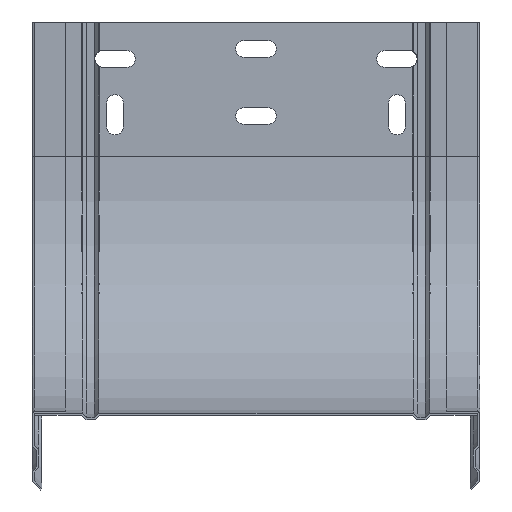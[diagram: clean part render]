
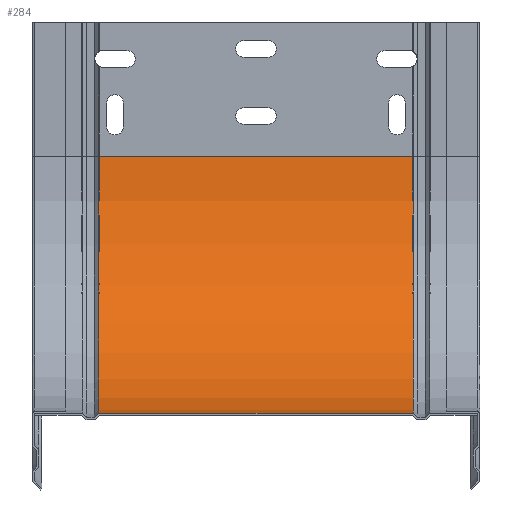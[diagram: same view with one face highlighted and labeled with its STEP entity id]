
A CAD part, front view. The second image highlights one B-rep face of the part: STEP entity #284.
In plain terms, the highlighted cylindrical face has radius 115 mm (diameter 230 mm), a partial arc.
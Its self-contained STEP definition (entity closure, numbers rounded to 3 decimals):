
#206 = VERTEX_POINT ( 'NONE', #1569 ) ;
#284 = ADVANCED_FACE ( 'NONE', ( #4958 ), #1093, .F. ) ;
#467 = DIRECTION ( 'NONE',  ( 1., 0., 0. ) ) ;
#659 = DIRECTION ( 'NONE',  ( -1., 0., 0. ) ) ;
#706 = EDGE_CURVE ( 'NONE', #206, #3408, #1249, .T. ) ;
#744 = CARTESIAN_POINT ( 'NONE',  ( 0., -115., -60. ) ) ;
#825 = ORIENTED_EDGE ( 'NONE', *, *, #1958, .T. ) ;
#854 = CARTESIAN_POINT ( 'NONE',  ( 70.331, 0., -60. ) ) ;
#1011 = CARTESIAN_POINT ( 'NONE',  ( 70.331, -115., -175. ) ) ;
#1093 = CYLINDRICAL_SURFACE ( 'NONE', #2214, 115. ) ;
#1185 = ORIENTED_EDGE ( 'NONE', *, *, #1993, .F. ) ;
#1249 = LINE ( 'NONE', #1330, #3940 ) ;
#1330 = CARTESIAN_POINT ( 'NONE',  ( -70.331, -115., -175. ) ) ;
#1511 = CIRCLE ( 'NONE', #3045, 115. ) ;
#1569 = CARTESIAN_POINT ( 'NONE',  ( -70.331, -115., -175. ) ) ;
#1664 = EDGE_CURVE ( 'NONE', #4972, #3408, #1677, .T. ) ;
#1677 = CIRCLE ( 'NONE', #3225, 115. ) ;
#1958 = EDGE_CURVE ( 'NONE', #3094, #206, #1511, .T. ) ;
#1993 = EDGE_CURVE ( 'NONE', #3094, #4972, #2642, .T. ) ;
#2214 = AXIS2_PLACEMENT_3D ( 'NONE', #744, #659, #5424 ) ;
#2391 = CARTESIAN_POINT ( 'NONE',  ( 70.331, -115., -60. ) ) ;
#2642 = LINE ( 'NONE', #4351, #5467 ) ;
#2926 = EDGE_LOOP ( 'NONE', ( #1185, #825, #3891, #3088 ) ) ;
#3045 = AXIS2_PLACEMENT_3D ( 'NONE', #4827, #3087, #3549 ) ;
#3087 = DIRECTION ( 'NONE',  ( -1., 0., 0. ) ) ;
#3088 = ORIENTED_EDGE ( 'NONE', *, *, #1664, .F. ) ;
#3094 = VERTEX_POINT ( 'NONE', #3936 ) ;
#3225 = AXIS2_PLACEMENT_3D ( 'NONE', #2391, #4951, #4467 ) ;
#3408 = VERTEX_POINT ( 'NONE', #1011 ) ;
#3549 = DIRECTION ( 'NONE',  ( 0., 0., 1. ) ) ;
#3891 = ORIENTED_EDGE ( 'NONE', *, *, #706, .T. ) ;
#3906 = DIRECTION ( 'NONE',  ( 1., 0., 0. ) ) ;
#3936 = CARTESIAN_POINT ( 'NONE',  ( -70.331, 0., -60. ) ) ;
#3940 = VECTOR ( 'NONE', #3906, 1000. ) ;
#4351 = CARTESIAN_POINT ( 'NONE',  ( -70.331, 0., -60. ) ) ;
#4467 = DIRECTION ( 'NONE',  ( 0., 0., 1. ) ) ;
#4827 = CARTESIAN_POINT ( 'NONE',  ( -70.331, -115., -60. ) ) ;
#4951 = DIRECTION ( 'NONE',  ( -1., 0., 0. ) ) ;
#4958 = FACE_OUTER_BOUND ( 'NONE', #2926, .T. ) ;
#4972 = VERTEX_POINT ( 'NONE', #854 ) ;
#5424 = DIRECTION ( 'NONE',  ( 0., 0., 1. ) ) ;
#5467 = VECTOR ( 'NONE', #467, 1000. ) ;
